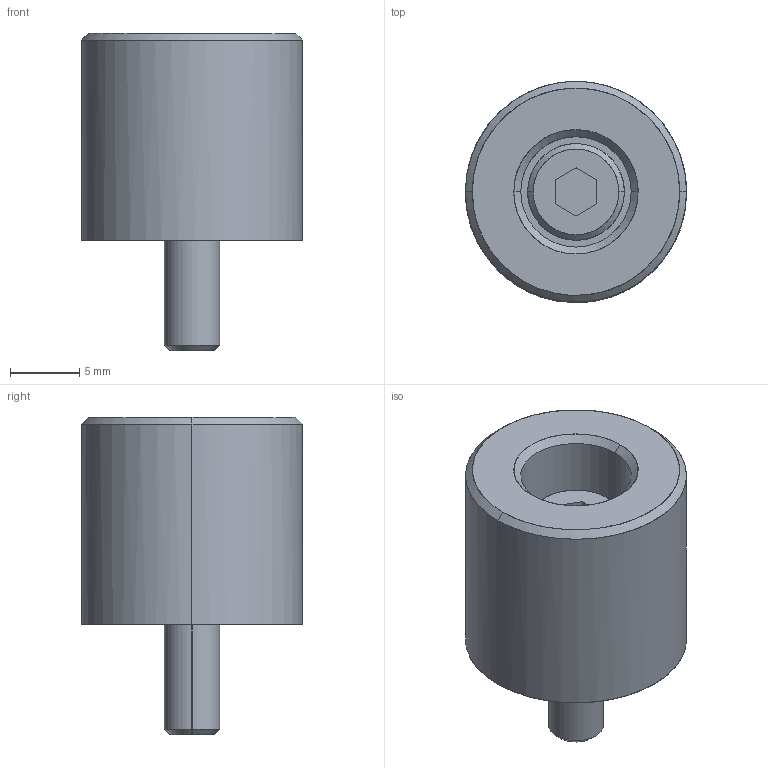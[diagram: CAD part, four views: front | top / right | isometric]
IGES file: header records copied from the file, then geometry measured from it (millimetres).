
Global section: file name: E:\UnigraphicsGraphicData\MISUMI_PRESS-PARTS\IGES\3d_sbv16-15-n-15_00588_r00.igs; native system: NX V5.0; preprocessor: UGS NX IGES V5.0; author: MISUMI; date: 20110105.162507; units: millimetre
Bounding box: 16 x 16 x 23 mm (x, y, z)
Surface area: 1772.8 mm2 (no closed solid volume)
Topology: 0 solids, 0 shells, 31 faces, 188 edges, 188 vertices
Faces by surface type: bspline 31
